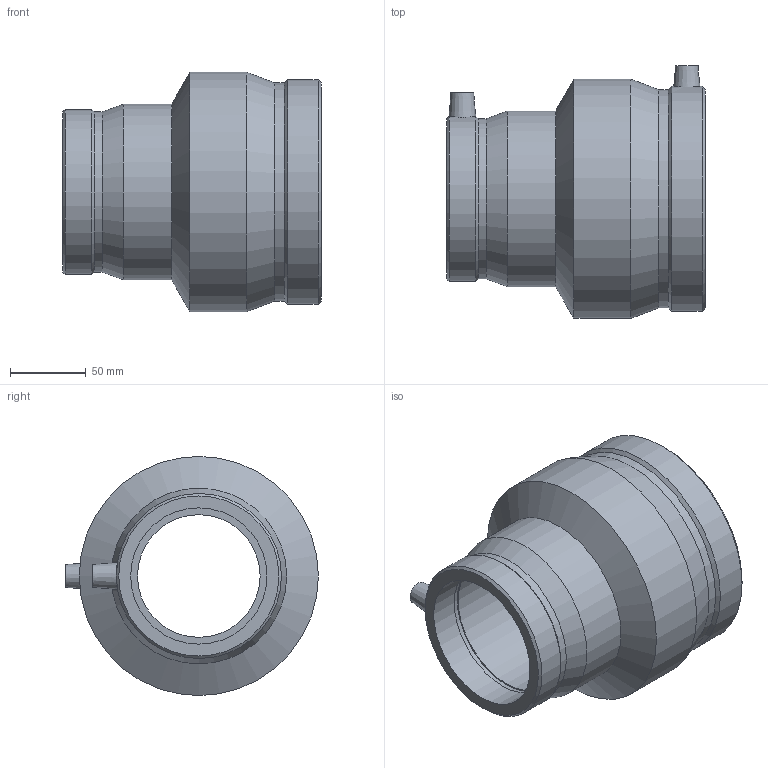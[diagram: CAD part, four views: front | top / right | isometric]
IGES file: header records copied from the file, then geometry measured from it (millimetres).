
Global section: file name: 491104125090.ipt; native system: Autodesk Inventor 2015; preprocessor: unknown; author: KIM; date: 20171106.093738; units: millimetre
Bounding box: 171 x 167 x 158 mm (x, y, z)
Volume: 874240.7 mm3; surface area: 153261.5 mm2
Topology: 1 solids, 1 shells, 39 faces, 88 edges, 59 vertices
Faces by surface type: plane 12, revolution 10, cone 9, cylinder 8
Full cylindrical faces by diameter (mm): 4 x2, 105.769 x1, 116 x1, 144.064 x1, 148.52 x1, 158 x1
